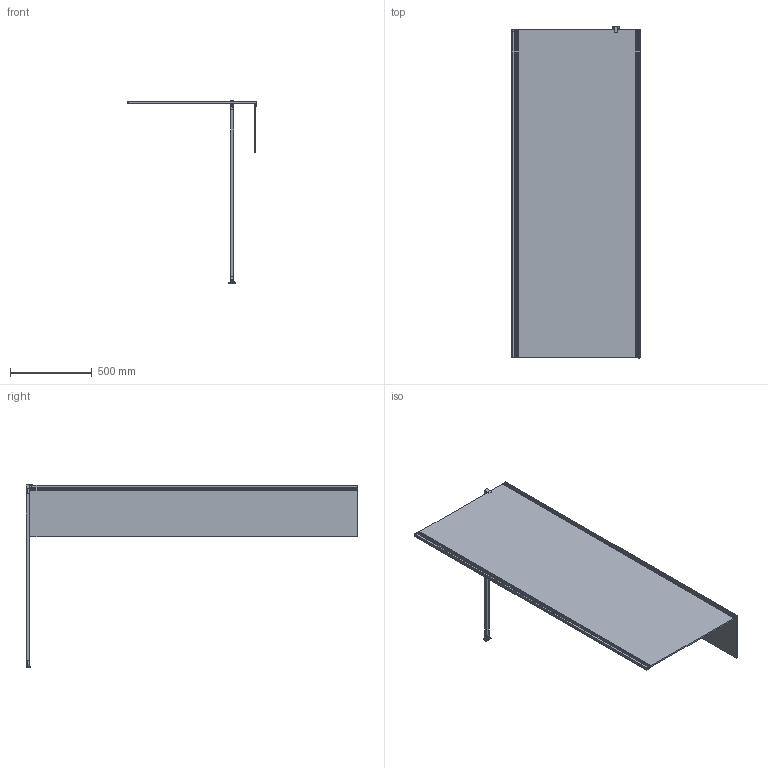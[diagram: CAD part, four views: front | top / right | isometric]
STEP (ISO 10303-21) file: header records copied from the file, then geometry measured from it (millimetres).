
FILE_DESCRIPTION(/* description */ (''),/* implementation_level */ '2;1');
FILE_NAME(/* name */ 'c:\worker\convert-fusion-apr-2019\tmp\job-1\4\output\files\7fa2bf42-60b1-46bc-b29c-45f4b7e76e48\5dba3b22-b257-4d4e-bb58-806bd26d61f1.stp',/* time_stamp */ '2019-05-09T06:52:16+00:00',/* author */ (''),/* organization */ (''),/* preprocessor_version */ 'ST-DEVELOPER v18',/* originating_system */ 'Autodesk Translation Framework v8.2.0.1029',/* authorisation */ '');
FILE_SCHEMA (('AUTOMOTIVE_DESIGN { 1 0 10303 214 3 1 1 }'));
Length unit declared in the file: millimetre
Products named in the file (1): DNR80X+DNR30X
Bounding box: 784.5 x 2024 x 1112.86 mm (x, y, z)
Volume: 20629251.2 mm3; surface area: 5551223.5 mm2
Topology: 16 solids, 16 shells, 867 faces, 2247 edges, 1410 vertices
Faces by surface type: cylinder 404, plane 382, torus 32, bspline 23, sphere 22, cone 4
Full cylindrical faces by diameter (mm): 3.5 x2, 6.048 x30, 6.908 x32, 7 x2
Entity records: 29946 total; most frequent: CARTESIAN_POINT 8520, DIRECTION 4525, ORIENTED_EDGE 4474, EDGE_CURVE 2237, AXIS2_PLACEMENT_3D 1561, VERTEX_POINT 1410, LINE 1403, VECTOR 1403
